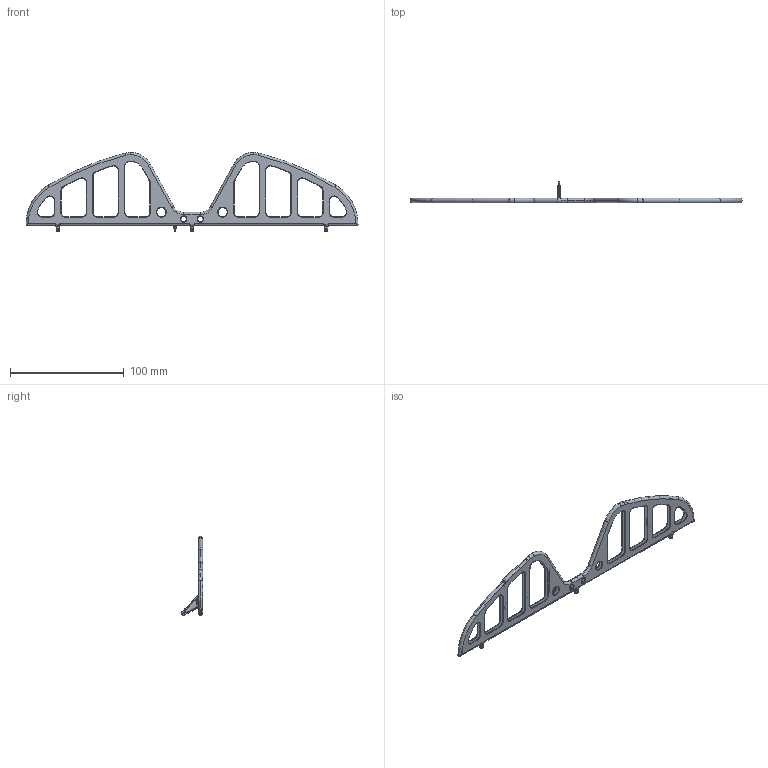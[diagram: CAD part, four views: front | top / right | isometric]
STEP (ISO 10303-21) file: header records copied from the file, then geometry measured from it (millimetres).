
FILE_DESCRIPTION (( 'STEP AP203' ), '1' );
FILE_NAME ('06-12-032-00.STEP', '2019-02-25T08:50:53', ( '' ), ( '' ), 'SwSTEP 2.0', 'SolidWorks 2014', '' );
FILE_SCHEMA (( 'CONFIG_CONTROL_DESIGN' ));
Length unit declared in the file: millimetre
Products named in the file (1): 06-12-032-00
Bounding box: 292.04 x 19 x 69.6 mm (x, y, z)
Volume: 10967.7 mm3; surface area: 31416.6 mm2
Topology: 1 solids, 1 shells, 1139 faces, 2877 edges, 1627 vertices
Faces by surface type: cylinder 442, torus 384, plane 179, bspline 122, sphere 12
Entity records: 37342 total; most frequent: CARTESIAN_POINT 10092, DIRECTION 6221, ORIENTED_EDGE 5628, EDGE_CURVE 2814, AXIS2_PLACEMENT_3D 2674, CIRCLE 1656, VERTEX_POINT 1627, EDGE_LOOP 1197
